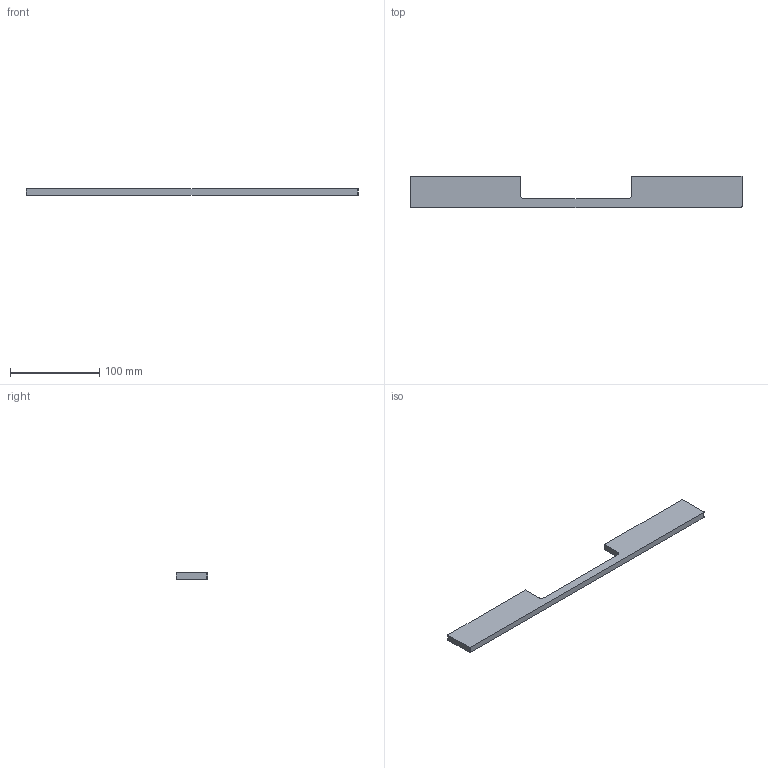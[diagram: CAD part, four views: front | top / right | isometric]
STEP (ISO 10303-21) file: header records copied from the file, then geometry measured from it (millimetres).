
FILE_DESCRIPTION( ( '' ), '1' );
FILE_NAME( 'C:/Documents and Settings/Nikhil/Desktop/Nik/Done/115017.stp', '2013-10-24T06:16:44', ( '' ), ( '' ), ' ', ' ', ' ' );
FILE_SCHEMA( ( 'automotive_design' ) );
Length unit declared in the file: millimetre
Products named in the file (1): 1
Bounding box: 372 x 35 x 7 mm (x, y, z)
Volume: 69109 mm3; surface area: 26021.9 mm2
Topology: 1 solids, 1 shells, 20 faces, 48 edges, 32 vertices
Faces by surface type: plane 12, cylinder 8
Entity records: 1172 total; most frequent: DIRECTION 106, STYLED_ITEM 101, PRESENTATION_STYLE_ASSIGNMENT 101, CARTESIAN_POINT 101, COLOUR_RGB 101, ORIENTED_EDGE 96, EDGE_CURVE 48, CURVE_STYLE 48
